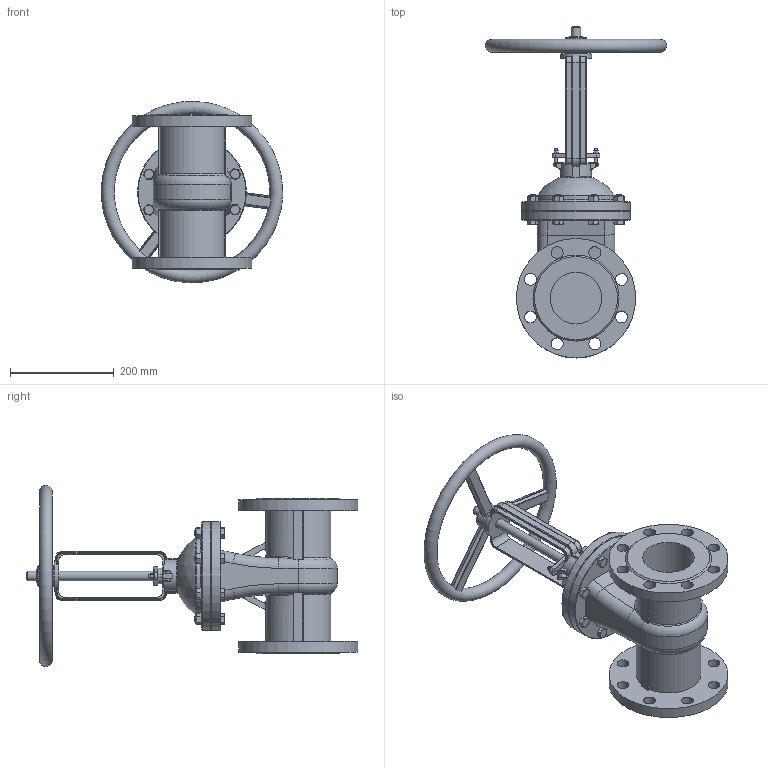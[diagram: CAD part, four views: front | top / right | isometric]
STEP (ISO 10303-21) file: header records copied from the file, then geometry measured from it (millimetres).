
FILE_DESCRIPTION(('STEP AP242'), '1');
FILE_NAME('GVWR3131M-2W-F-S Çàäâèæêà êëèíîâàÿ ñ âûäâèæíûì øòîêîì DN.ru Äó100 Ðó25', '2026-05-31T09:15:10', ('R2D2'), (''), 'C3D Converter', 'C3D Toolkit', '');
FILE_SCHEMA(('AP242_MANAGED_MODEL_BASED_3D_ENGINEERING_MIM_LF { 1 0 10303 442 1 1 4 }'));
Length unit declared in the file: millimetre
Products named in the file (1): GVWR3131M-2W-F-S
Bounding box: 349.59 x 640 x 349.58 mm (x, y, z)
Volume: 7329180 mm3; surface area: 716256.4 mm2
Topology: 1 solids, 1 shells, 875 faces, 2276 edges, 1454 vertices
Faces by surface type: plane 383, cylinder 186, extrusion 106, bspline 69, torus 65, cone 65, sphere 1
Full cylindrical faces by diameter (mm): 3 x3, 5 x4, 8 x2, 12 x16, 18 x2, 20 x1, 23 x16, 25 x1, 30 x1, 40 x2, 50 x1, 60 x1, 100 x2, 150 x2, 210 x2, 230 x2
Entity records: 54693 total; most frequent: CARTESIAN_POINT 27737, ORIENTED_EDGE 4334, DIRECTION 3456, EDGE_CURVE 2167, VERTEX_POINT 1449, AXIS2_PLACEMENT_3D 1233, EDGE_LOOP 1100, VECTOR 990
